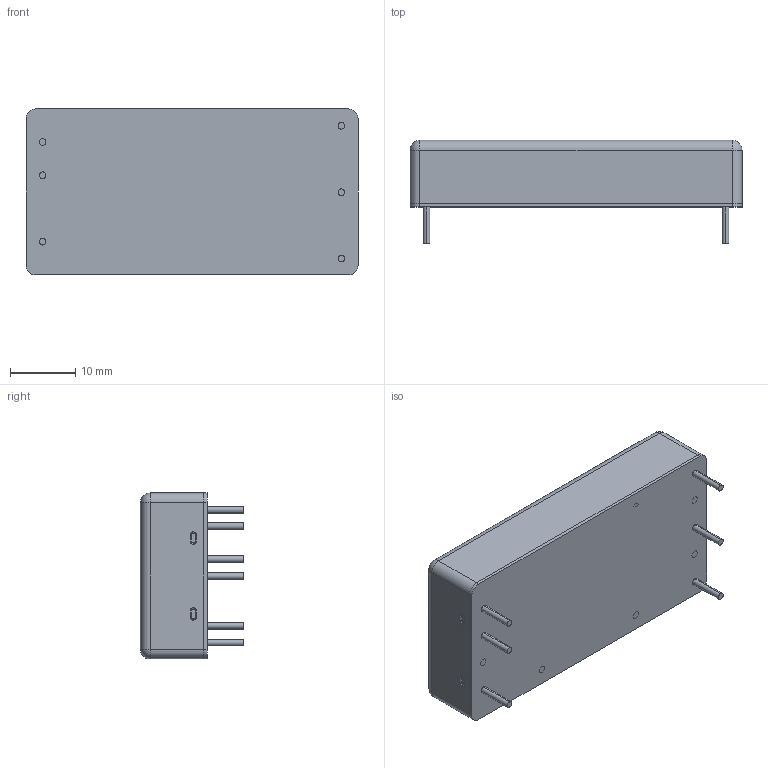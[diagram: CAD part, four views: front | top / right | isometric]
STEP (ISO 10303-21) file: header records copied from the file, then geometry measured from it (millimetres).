
FILE_DESCRIPTION (( 'STEP AP203' ), '1' );
FILE_NAME ('EC7BW-S-1121026.STEP', '2023-10-30T05:53:15', ( 'cincon' ), ( '' ), 'SwSTEP 2.0', 'SolidWorks 2020', '' );
FILE_SCHEMA (( 'CONFIG_CONTROL_DESIGN' ));
Length unit declared in the file: millimetre
Products named in the file (1): EC7BW-S-1121026
Bounding box: 50.8 x 15.8 x 25.4 mm (x, y, z)
Volume: 2794 mm3; surface area: 9249.9 mm2
Topology: 1 solids, 7 shells, 434 faces, 1081 edges, 678 vertices
Faces by surface type: plane 204, cylinder 102, torus 60, cone 60, sphere 8
Entity records: 12981 total; most frequent: DIRECTION 2404, CARTESIAN_POINT 2219, ORIENTED_EDGE 2146, EDGE_CURVE 1073, AXIS2_PLACEMENT_3D 907, VERTEX_POINT 678, VECTOR 590, LINE 590
